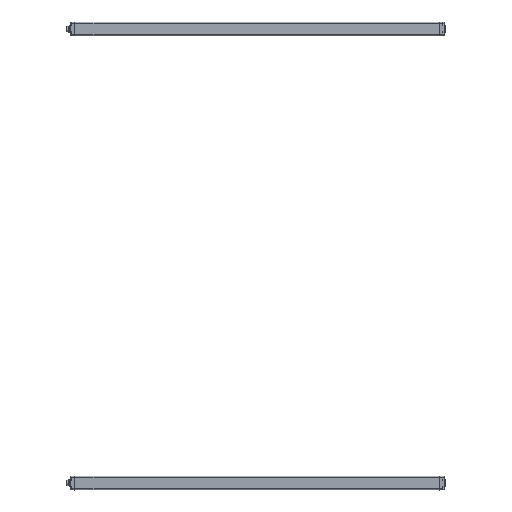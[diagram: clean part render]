
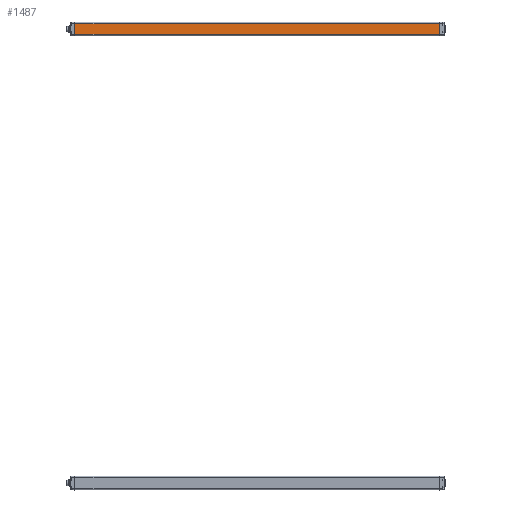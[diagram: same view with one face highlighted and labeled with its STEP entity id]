
A CAD part, front view. The second image highlights one B-rep face of the part: STEP entity #1487.
In plain terms, the highlighted planar face has unit normal (0, -1, 0).
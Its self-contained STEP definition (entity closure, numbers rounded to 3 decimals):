
#1487=ADVANCED_FACE('',(#2027),#11283,.T.);
#2027=FACE_OUTER_BOUND('',#2546,.T.);
#2546=EDGE_LOOP('',(#5822,#5823,#5824,#5825));
#3114=LINE('',#15597,#4287);
#3216=LINE('',#15829,#4389);
#3304=LINE('',#16008,#4477);
#3305=LINE('',#16009,#4478);
#4287=VECTOR('',#12575,1.);
#4389=VECTOR('',#12721,1.);
#4477=VECTOR('',#12911,1.);
#4478=VECTOR('',#12912,1.);
#5822=ORIENTED_EDGE('',*,*,#9464,.T.);
#5823=ORIENTED_EDGE('',*,*,#9673,.T.);
#5824=ORIENTED_EDGE('',*,*,#9581,.F.);
#5825=ORIENTED_EDGE('',*,*,#9674,.F.);
#8471=VERTEX_POINT('',#15596);
#8472=VERTEX_POINT('',#15598);
#8579=VERTEX_POINT('',#15828);
#8580=VERTEX_POINT('',#15830);
#9464=EDGE_CURVE('',#8472,#8471,#3114,.T.);
#9581=EDGE_CURVE('',#8579,#8580,#3216,.T.);
#9673=EDGE_CURVE('',#8471,#8580,#3304,.T.);
#9674=EDGE_CURVE('',#8472,#8579,#3305,.T.);
#11283=PLANE('',#11726);
#11726=AXIS2_PLACEMENT_3D('',#16010,#12913,#12914);
#12575=DIRECTION('',(0.,0.,-1.));
#12721=DIRECTION('',(0.,0.,-1.));
#12911=DIRECTION('',(1.,0.,0.));
#12912=DIRECTION('',(1.,0.,0.));
#12913=DIRECTION('',(0.,-1.,0.));
#12914=DIRECTION('',(0.,0.,-1.));
#15596=CARTESIAN_POINT('',(0.,-15.15,-12.));
#15597=CARTESIAN_POINT('',(0.,-15.15,12.));
#15598=CARTESIAN_POINT('',(0.,-15.15,12.));
#15828=CARTESIAN_POINT('',(825.,-15.15,12.));
#15829=CARTESIAN_POINT('',(825.,-15.15,12.));
#15830=CARTESIAN_POINT('',(825.,-15.15,-12.));
#16008=CARTESIAN_POINT('',(0.,-15.15,-12.));
#16009=CARTESIAN_POINT('',(0.,-15.15,12.));
#16010=CARTESIAN_POINT('',(0.,-15.15,15.65));
